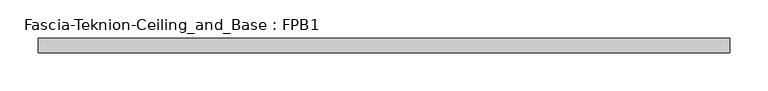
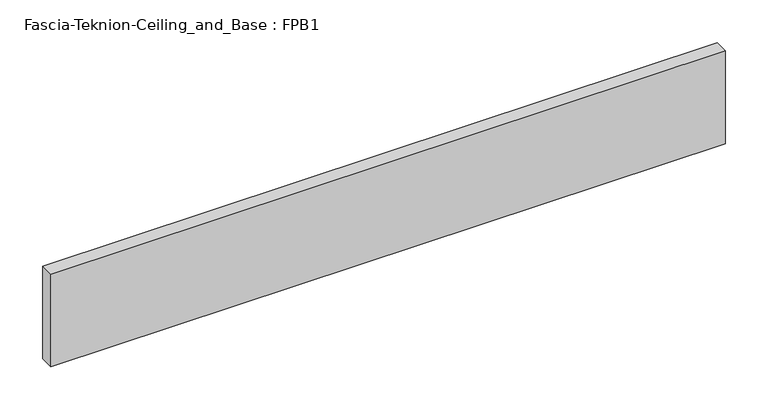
"""IFC4 building model written with IfcOpenShell, lengths in millimetres: proxy geometry, Fascia-Teknion-Ceiling_and_Base : FPB1."""

import ifcopenshell
import ifcopenshell.guid

model = None  # the IFC model being written
_history = None  # IfcOwnerHistory: only IFC2X3 demands one
_inside = {}  # id of a spatial element -> (the spatial element, [elements in it])
_under = {}  # id of a project, library or spatial element -> (it, [spatial elements below it])
_declared = {}  # id of a project -> (the project, [libraries it declares])
_typed = {}  # id of a type object -> (the type object, [elements of that type])
_made_of = {}  # id of a material, layer set ... -> (it, [elements and type objects made of it])


def new_model(schema):
    """Start an empty IFC model of exactly this schema.

    Asked for "IFC4X3", IfcOpenShell would pick the latest addendum, in which some entities
    have other attributes; the version numbers below select the first issue.
    IFC2X3 requires an IfcOwnerHistory on every rooted entity: one is made here for all.
    """
    global model, _history
    if schema == "IFC4X3":
        model = ifcopenshell.file(schema_version=(4, 3, 0, 0))
    else:
        model = ifcopenshell.file(schema=schema)
    _inside.clear()
    _under.clear()
    _declared.clear()
    _typed.clear()
    _made_of.clear()
    _history = None
    if model.schema == "IFC2X3":
        org = make("IfcOrganization", Name="unknown")
        user = make(
            "IfcPersonAndOrganization",
            ThePerson=make("IfcPerson", FamilyName="unknown"),
            TheOrganization=org,
        )
        app = make(
            "IfcApplication",
            ApplicationDeveloper=org,
            Version="unknown",
            ApplicationFullName="unknown",
            ApplicationIdentifier="unknown",
        )
        _history = make(
            "IfcOwnerHistory",
            OwningUser=user,
            OwningApplication=app,
            ChangeAction="ADDED",
            CreationDate=0,
        )
    return model


def make(cls, **values):
    """One entity of the class cls with the attributes given. An attribute that is None is left unset."""
    return model.create_entity(
        cls, **{name: value for name, value in values.items() if value is not None}
    )


def rooted(cls, **values):
    """An entity with a GlobalId (a new one), such as an element, a storey or a relation."""
    return make(cls, GlobalId=ifcopenshell.guid.new(), OwnerHistory=_history, **values)


def si_unit(unit_type, name, prefix=None):
    """IfcSIUnit, for example si_unit("LENGTHUNIT", "METRE", prefix="MILLI")."""
    return make("IfcSIUnit", UnitType=unit_type, Prefix=prefix, Name=name)


def assignment(units):
    """IfcUnitAssignment: the units of a project."""
    return None if units is None else make("IfcUnitAssignment", Units=units)


def point(xyz):
    """IfcCartesianPoint."""
    return None if xyz is None else make("IfcCartesianPoint", Coordinates=xyz)


def direction(xyz):
    """IfcDirection."""
    return None if xyz is None else make("IfcDirection", DirectionRatios=xyz)


def frame(location, z_axis=None, x_axis=None):
    """IfcAxis2Placement3D, a coordinate frame: its origin and axes. An axis left out is left unset."""
    return make(
        "IfcAxis2Placement3D",
        Location=point(location),
        Axis=direction(z_axis),
        RefDirection=direction(x_axis),
    )


def origin():
    """The frame at (0, 0, 0) with its axes left unset."""
    return frame((0.0, 0.0, 0.0))


def origin_with_axes():
    """The frame at (0, 0, 0) with the z axis (0, 0, 1) and the x axis (1, 0, 0) written out."""
    return frame((0.0, 0.0, 0.0), z_axis=(0.0, 0.0, 1.0), x_axis=(1.0, 0.0, 0.0))


def place(relative_to, where):
    """IfcLocalPlacement: puts the frame where relative to a parent placement (None: the world)."""
    return make(
        "IfcLocalPlacement", PlacementRelTo=relative_to, RelativePlacement=where
    )


def context(
    kind, dimensions, precision=None, world=None, true_north=None, identifier=None
):
    """IfcGeometricRepresentationContext, for example the 3D "Model" context."""
    return make(
        "IfcGeometricRepresentationContext",
        ContextIdentifier=identifier,
        ContextType=kind,
        CoordinateSpaceDimension=dimensions,
        Precision=precision,
        WorldCoordinateSystem=world,
        TrueNorth=true_north,
    )


def project(units=None, contexts=None):
    """IfcProject with its units and contexts."""
    return rooted(
        "IfcProject",
        Name="project",
        RepresentationContexts=contexts,
        UnitsInContext=assignment(units),
    )


def spatial(cls, under=None, at=None, **own):
    """A site, building, storey or space (cls), placed at a placement, below another one or the project."""
    s = rooted(cls, ObjectPlacement=at, **own)
    if under is not None:
        _under.setdefault(under.id(), (under, []))[1].append(s)
    return s


def polyline(points):
    """IfcPolyline through the points."""
    return make("IfcPolyline", Points=[point(p) for p in points])


def outline(outer, holes=None, kind="AREA"):
    """IfcArbitraryClosedProfileDef: a profile drawn as a closed curve; with holes, ...WithVoids."""
    if holes is None:
        return make("IfcArbitraryClosedProfileDef", ProfileType=kind, OuterCurve=outer)
    return make(
        "IfcArbitraryProfileDefWithVoids",
        ProfileType=kind,
        OuterCurve=outer,
        InnerCurves=holes,
    )


def extrude(swept, where, along, depth):
    """IfcExtrudedAreaSolid: the profile swept, set in the frame where, extruded along a direction by depth."""
    return make(
        "IfcExtrudedAreaSolid",
        SweptArea=swept,
        Position=where,
        ExtrudedDirection=direction(along),
        Depth=depth,
    )


def shape(context_of_items, identifier, shape_type, items):
    """IfcShapeRepresentation: the items that make up one representation, for example the "Body"."""
    return make(
        "IfcShapeRepresentation",
        ContextOfItems=context_of_items,
        RepresentationIdentifier=identifier,
        RepresentationType=shape_type,
        Items=items,
    )


def source(mapping_origin, context_of_items, identifier, shape_type, items):
    """IfcRepresentationMap: a shape defined once, which mapped items show again and again."""
    return make(
        "IfcRepresentationMap",
        MappingOrigin=mapping_origin,
        MappedRepresentation=shape(context_of_items, identifier, shape_type, items),
    )


def transform(
    local_origin,
    x_axis=None,
    y_axis=None,
    z_axis=None,
    scale=None,
    scale2=None,
    scale3=None,
    uniform=True,
):
    """IfcCartesianTransformationOperator3D, or its non-uniform kind. x_axis, y_axis, z_axis: its Axis1, 2, 3."""
    if uniform:
        return make(
            "IfcCartesianTransformationOperator3D",
            Axis1=direction(x_axis),
            Axis2=direction(y_axis),
            LocalOrigin=point(local_origin),
            Scale=scale,
            Axis3=direction(z_axis),
        )
    return make(
        "IfcCartesianTransformationOperator3DnonUniform",
        Axis1=direction(x_axis),
        Axis2=direction(y_axis),
        LocalOrigin=point(local_origin),
        Scale=scale,
        Axis3=direction(z_axis),
        Scale2=scale2,
        Scale3=scale3,
    )


def mapped(mapping_source, mapping_target):
    """IfcMappedItem: shows the shape of a source again, moved by a transform."""
    return make(
        "IfcMappedItem", MappingSource=mapping_source, MappingTarget=mapping_target
    )


def made_of(thing, what):
    """Note that an element or type object is made of a material, layer set ...; save() writes the relation."""
    if what is not None:
        _made_of.setdefault(what.id(), (what, []))[1].append(thing)
    return thing


def element(
    cls,
    number,
    at=None,
    inside=None,
    cuts=None,
    type_object=None,
    material=None,
    context=None,
    identifier="Body",
    shape_type=None,
    held_by="IfcProductDefinitionShape",
    body=None,
    shapes=None,
    **own,
):
    """One element of the class cls, such as IfcWall. Its Tag is "e" and its number.

    at: its placement. inside: the storey or other place that contains it. cuts: it is an
    opening in that element (IfcRelVoidsElement). A single representation is given by context,
    identifier, shape_type and body (its items); several are given by shapes. held_by: the class
    of the entity that holds the representations. save() writes the other relations.
    """
    e = rooted(cls, Tag="e%d" % number, ObjectPlacement=at, **own)
    if body is not None:
        shapes = [shape(context, identifier, shape_type, body)]
    if shapes is not None:
        e.Representation = make(held_by, Representations=shapes)
    if inside is not None:
        _inside.setdefault(inside.id(), (inside, []))[1].append(e)
    if cuts is not None:
        rooted(
            "IfcRelVoidsElement", RelatingBuildingElement=cuts, RelatedOpeningElement=e
        )
    if type_object is not None:
        _typed.setdefault(type_object.id(), (type_object, []))[1].append(e)
    return made_of(e, material)


def aggregate(whole, parts):
    """IfcRelAggregates: a whole, such as a stair, and the parts it consists of."""
    return rooted("IfcRelAggregates", RelatingObject=whole, RelatedObjects=parts)


def save(model, path):
    """Write the relations noted so far, then the file.

    IfcRelAggregates (storeys below a building ...), IfcRelContainedInSpatialStructure (elements
    in a storey), IfcRelDefinesByType, IfcRelAssociatesMaterial and IfcRelDeclares: one each for
    every whole, place, type object, material and project.
    """
    for whole, parts in _under.values():
        aggregate(whole, parts)
    for where, things in _inside.values():
        rooted(
            "IfcRelContainedInSpatialStructure",
            RelatedElements=things,
            RelatingStructure=where,
        )
    for kind, things in _typed.values():
        rooted("IfcRelDefinesByType", RelatedObjects=things, RelatingType=kind)
    for what, things in _made_of.values():
        rooted("IfcRelAssociatesMaterial", RelatedObjects=things, RelatingMaterial=what)
    for by, libraries in _declared.values():
        rooted("IfcRelDeclares", RelatingContext=by, RelatedDefinitions=libraries)
    model.write(path)


def fascia_teknion_ceiling_and_base_fpb1_d476be8e(model_context):
    return source(origin(), model_context, "Body", "SweptSolid", [
        extrude(outline(polyline([(454.6147563, 0.0), (454.6147563, -19.05), (-454.6147562, -19.05), (-454.6147562, 0.0), (454.6147563, 0.0)])), origin_with_axes(), (0.0, 0.0, 1.0), 132.08),
    ])


if __name__ == "__main__":
    model = new_model("IFC4")
    model_context = context("Model", 3, world=origin())
    ifc_project = project(units=[si_unit("LENGTHUNIT", "METRE", prefix="MILLI")], contexts=[model_context])
    site = spatial("IfcSite", under=ifc_project)
    building = spatial("IfcBuilding", under=site)
    placement = place(None, origin())
    fascia_teknion_ceiling_and_base_fpb1_shape = fascia_teknion_ceiling_and_base_fpb1_d476be8e(model_context)
    element("IfcBuildingElementProxy", 1, Name="Fascia-Teknion-Ceiling_and_Base : FPB1", ObjectType="Fascia-Teknion-Ceiling_and_Base : FPB1", at=placement, inside=building, context=model_context, shape_type="MappedRepresentation", body=[
        mapped(fascia_teknion_ceiling_and_base_fpb1_shape, transform((0.0, 0.0, 0.0), x_axis=(1.0, 0.0, 0.0), y_axis=(0.0, 1.0, 0.0), z_axis=(0.0, 0.0, 1.0))),
    ])
    save(model, "model.ifc")
